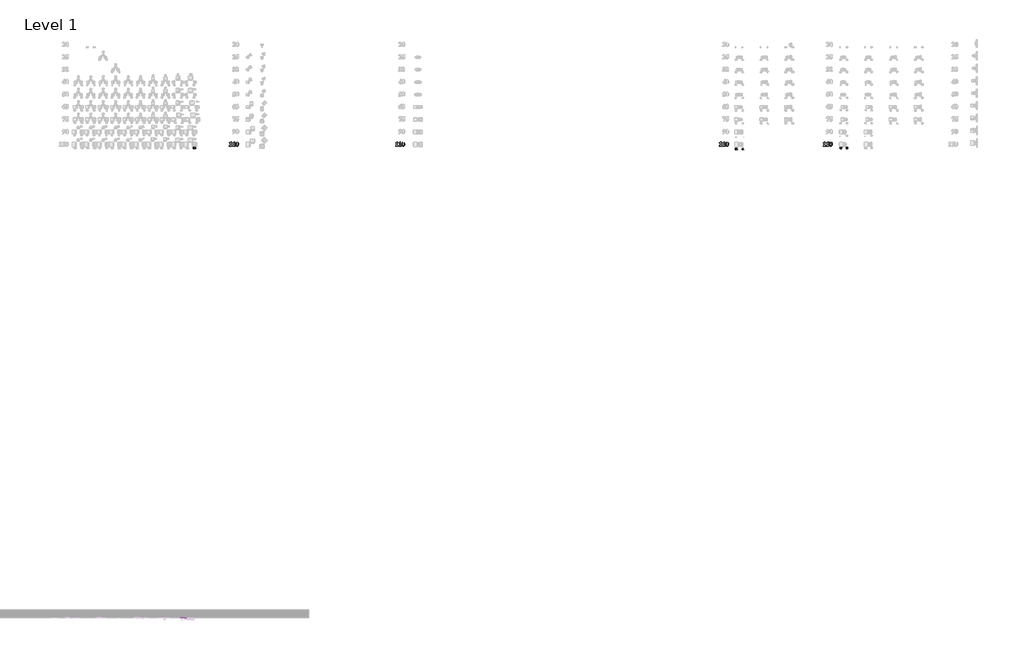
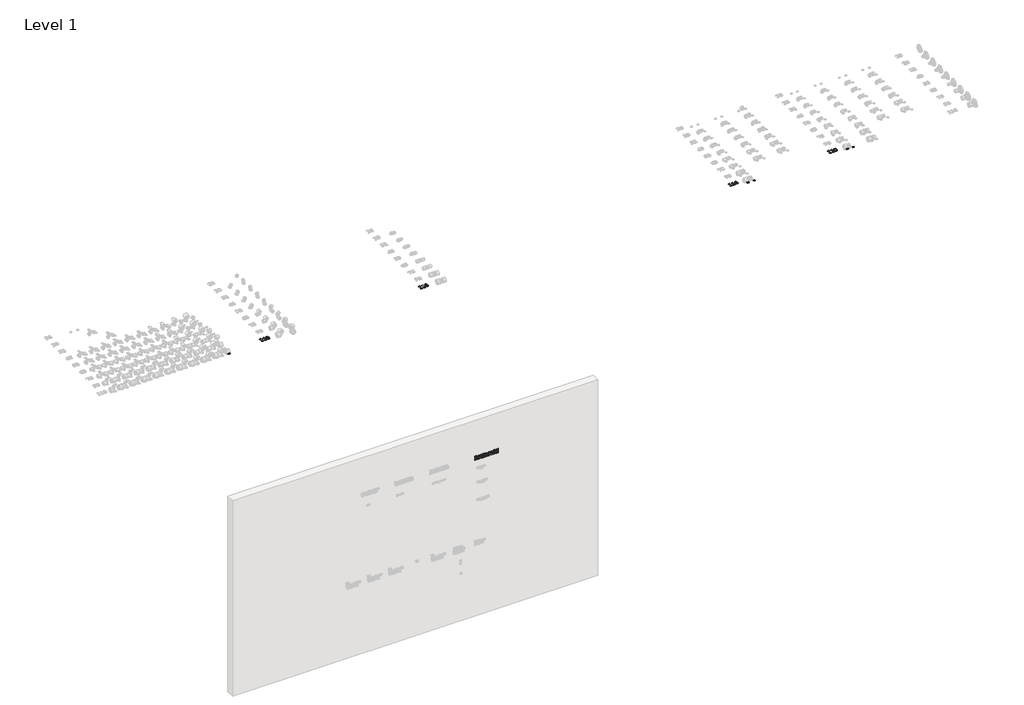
# One storey, part 18 of 57: 10 proxies.
"""IFC4 building model written with IfcOpenShell, lengths in millimetres."""

from ifc_helpers import new_model, si_unit, frame, origin, place, context, project, spatial, polyline, outline, extrude, element, save

model = new_model("IFC4")

# Units and contexts
model_context = context("Model", 3, world=origin())
ifc_project = project(units=[si_unit("LENGTHUNIT", "METRE", prefix="MILLI")], contexts=[model_context])

# Site, building, storey
site = spatial("IfcSite", under=ifc_project)
building = spatial("IfcBuilding", under=site)
storey = spatial("IfcBuildingStorey", under=building, Name="Level 1", Elevation=27.3876384)

# Proxies
placement = place(None, origin())
element("IfcBuildingElementProxy", 1, Name="100mm Arial", ObjectType="100mm Arial", at=placement, inside=storey, context=model_context, shape_type="SweptSolid", body=[
    extrude(outline(polyline([(16947.0644959, 16010.8916255), (16947.0644959, 15927.1351635), (16947.9233268, 15915.4387044), (16951.5358695, 15911.2945045), (16960.3422944, 15909.6859006), (16962.7688325, 15909.6859006), (16962.7688325, 15906.196048), (16906.9311912, 15906.196048), (16906.9311912, 15909.6859006), (16909.7394319, 15909.6859006), (16919.4455844, 15911.1581821), (16923.3580363, 15915.1933242), (16924.3804541, 15927.1351635), (16924.3804541, 15979.4829522), (16923.7261067, 15988.1394225), (16921.2995686, 15991.1248823), (16917.2098976, 15992.3790481), (16908.2398859, 15989.95251), (16906.9311912, 15993.4423626), (16944.5834288, 16010.8916255), (16947.0644959, 16010.8916255)])), frame((0.0, 0.0, 27.3876384), z_axis=(0.0, 0.0, 1.0), x_axis=(1.0, 0.0, 0.0)), (0.0, 0.0, 1.0), 2.0),
    extrude(outline(polyline([(17025.586179, 16010.8916255), (17025.586179, 15927.1351635), (17026.4450099, 15915.4387044), (17030.0575526, 15911.2945045), (17038.8639775, 15909.6859006), (17041.2905157, 15909.6859006), (17041.2905157, 15906.196048), (16985.4528743, 15906.196048), (16985.4528743, 15909.6859006), (16988.2611151, 15909.6859006), (16997.9672676, 15911.1581821), (17001.8797195, 15915.1933242), (17002.9021372, 15927.1351635), (17002.9021372, 15979.4829522), (17002.2477899, 15988.1394225), (16999.8212517, 15991.1248823), (16995.7315807, 15992.3790481), (16986.761569, 15989.95251), (16985.4528743, 15993.4423626), (17023.105112, 16010.8916255), (17025.586179, 16010.8916255)])), frame((0.0, 0.0, 27.3876384), z_axis=(0.0, 0.0, 1.0), x_axis=(1.0, 0.0, 0.0)), (0.0, 0.0, 1.0), 2.0),
    extrude(outline(polyline([(17126.791904, 15957.6713736), (17122.3477948, 15929.0982056), (17115.2317673, 15915.7658781), (17105.0893832, 15907.5047427), (17092.7385768, 15904.4511217), (17078.9563855, 15908.213619), (17068.0642284, 15919.0103504), (17062.0933088, 15932.6425871), (17058.7397786, 15956.4717368), (17063.5655903, 15987.0624758), (17068.554989, 15997.2491647), (17075.6164876, 16004.7434868), (17092.7385768, 16010.8916255), (17109.8742983, 16004.8252802), (17121.5843896, 15988.5074929), (17126.791904, 15957.6713736)]), holes=[polyline([(17104.1078622, 15957.6713736), (17103.753424, 15989.0255179), (17099.6364885, 16003.2303085), (17092.6840478, 16005.6568466), (17086.8494506, 16003.8301269), (17082.5416638, 15994.505677), (17081.4238204, 15947.8561632), (17083.1414822, 15918.6831767), (17086.8358183, 15911.498988), (17093.2020728, 15909.6859006), (17099.6364885, 15912.1124387), (17103.753424, 15925.1721214), (17104.1078622, 15957.6713736)])]), frame((0.0, 0.0, 27.3876384), z_axis=(0.0, 0.0, 1.0), x_axis=(1.0, 0.0, 0.0)), (0.0, 0.0, 1.0), 2.0),
])
element("IfcBuildingElementProxy", 2, Name="100mm Arial", ObjectType="100mm Arial", at=placement, inside=storey, context=model_context, shape_type="SweptSolid", body=[
    extrude(outline(polyline([(20947.0644959, 16010.8916255), (20947.0644959, 15927.1351635), (20947.9233268, 15915.4387044), (20951.5358695, 15911.2945045), (20960.3422944, 15909.6859006), (20962.7688325, 15909.6859006), (20962.7688325, 15906.196048), (20906.9311912, 15906.196048), (20906.9311912, 15909.6859006), (20909.7394319, 15909.6859006), (20919.4455844, 15911.1581821), (20923.3580363, 15915.1933242), (20924.3804541, 15927.1351635), (20924.3804541, 15979.4829522), (20923.7261067, 15988.1394225), (20921.2995686, 15991.1248823), (20917.2098976, 15992.3790481), (20908.2398859, 15989.95251), (20906.9311912, 15993.4423626), (20944.5834288, 16010.8916255), (20947.0644959, 16010.8916255)])), frame((0.0, 0.0, 27.3876384), z_axis=(0.0, 0.0, 1.0), x_axis=(1.0, 0.0, 0.0)), (0.0, 0.0, 1.0), 2.0),
    extrude(outline(polyline([(21025.586179, 16010.8916255), (21025.586179, 15927.1351635), (21026.4450099, 15915.4387044), (21030.0575526, 15911.2945045), (21038.8639775, 15909.6859006), (21041.2905157, 15909.6859006), (21041.2905157, 15906.196048), (20985.4528743, 15906.196048), (20985.4528743, 15909.6859006), (20988.2611151, 15909.6859006), (20997.9672676, 15911.1581821), (21001.8797195, 15915.1933242), (21002.9021372, 15927.1351635), (21002.9021372, 15979.4829522), (21002.2477899, 15988.1394225), (20999.8212517, 15991.1248823), (20995.7315807, 15992.3790481), (20986.761569, 15989.95251), (20985.4528743, 15993.4423626), (21023.105112, 16010.8916255), (21025.586179, 16010.8916255)])), frame((0.0, 0.0, 27.3876384), z_axis=(0.0, 0.0, 1.0), x_axis=(1.0, 0.0, 0.0)), (0.0, 0.0, 1.0), 2.0),
    extrude(outline(polyline([(21126.791904, 15957.6713736), (21122.3477948, 15929.0982056), (21115.2317673, 15915.7658781), (21105.0893832, 15907.5047427), (21092.7385768, 15904.4511217), (21078.9563855, 15908.213619), (21068.0642284, 15919.0103504), (21062.0933088, 15932.6425871), (21058.7397786, 15956.4717368), (21063.5655903, 15987.0624758), (21068.554989, 15997.2491647), (21075.6164876, 16004.7434868), (21092.7385768, 16010.8916255), (21109.8742983, 16004.8252802), (21121.5843896, 15988.5074929), (21126.791904, 15957.6713736)]), holes=[polyline([(21104.1078622, 15957.6713736), (21103.753424, 15989.0255179), (21099.6364885, 16003.2303085), (21092.6840478, 16005.6568466), (21086.8494506, 16003.8301269), (21082.5416638, 15994.505677), (21081.4238204, 15947.8561632), (21083.1414822, 15918.6831767), (21086.8358183, 15911.498988), (21093.2020728, 15909.6859006), (21099.6364885, 15912.1124387), (21103.753424, 15925.1721214), (21104.1078622, 15957.6713736)])]), frame((0.0, 0.0, 27.3876384), z_axis=(0.0, 0.0, 1.0), x_axis=(1.0, 0.0, 0.0)), (0.0, 0.0, 1.0), 2.0),
])
element("IfcBuildingElementProxy", 3, Name="100mm Arial", ObjectType="100mm Arial", at=placement, inside=storey, context=model_context, shape_type="SweptSolid", body=[
    extrude(outline(polyline([(28747.0644959, 16010.8916255), (28747.0644959, 15927.1351635), (28747.9233268, 15915.4387044), (28751.5358695, 15911.2945045), (28760.3422944, 15909.6859006), (28762.7688325, 15909.6859006), (28762.7688325, 15906.196048), (28706.9311912, 15906.196048), (28706.9311912, 15909.6859006), (28709.7394319, 15909.6859006), (28719.4455844, 15911.1581821), (28723.3580363, 15915.1933242), (28724.3804541, 15927.1351635), (28724.3804541, 15979.4829522), (28723.7261067, 15988.1394225), (28721.2995686, 15991.1248823), (28717.2098976, 15992.3790481), (28708.2398859, 15989.95251), (28706.9311912, 15993.4423626), (28744.5834288, 16010.8916255), (28747.0644959, 16010.8916255)])), frame((0.0, 0.0, 27.3876384), z_axis=(0.0, 0.0, 1.0), x_axis=(1.0, 0.0, 0.0)), (0.0, 0.0, 1.0), 2.0),
    extrude(outline(polyline([(28825.586179, 16010.8916255), (28825.586179, 15927.1351635), (28826.4450099, 15915.4387044), (28830.0575526, 15911.2945045), (28838.8639775, 15909.6859006), (28841.2905157, 15909.6859006), (28841.2905157, 15906.196048), (28785.4528743, 15906.196048), (28785.4528743, 15909.6859006), (28788.2611151, 15909.6859006), (28797.9672676, 15911.1581821), (28801.8797195, 15915.1933242), (28802.9021372, 15927.1351635), (28802.9021372, 15979.4829522), (28802.2477899, 15988.1394225), (28799.8212517, 15991.1248823), (28795.7315807, 15992.3790481), (28786.761569, 15989.95251), (28785.4528743, 15993.4423626), (28823.105112, 16010.8916255), (28825.586179, 16010.8916255)])), frame((0.0, 0.0, 27.3876384), z_axis=(0.0, 0.0, 1.0), x_axis=(1.0, 0.0, 0.0)), (0.0, 0.0, 1.0), 2.0),
    extrude(outline(polyline([(28926.791904, 15957.6713736), (28922.3477948, 15929.0982056), (28915.2317673, 15915.7658781), (28905.0893832, 15907.5047427), (28892.7385768, 15904.4511217), (28878.9563855, 15908.213619), (28868.0642284, 15919.0103504), (28862.0933088, 15932.6425871), (28858.7397786, 15956.4717368), (28863.5655903, 15987.0624758), (28868.554989, 15997.2491647), (28875.6164876, 16004.7434868), (28892.7385768, 16010.8916255), (28909.8742983, 16004.8252802), (28921.5843896, 15988.5074929), (28926.791904, 15957.6713736)]), holes=[polyline([(28904.1078622, 15957.6713736), (28903.753424, 15989.0255179), (28899.6364885, 16003.2303085), (28892.6840478, 16005.6568466), (28886.8494506, 16003.8301269), (28882.5416638, 15994.505677), (28881.4238204, 15947.8561632), (28883.1414822, 15918.6831767), (28886.8358183, 15911.498988), (28893.2020728, 15909.6859006), (28899.6364885, 15912.1124387), (28903.753424, 15925.1721214), (28904.1078622, 15957.6713736)])]), frame((0.0, 0.0, 27.3876384), z_axis=(0.0, 0.0, 1.0), x_axis=(1.0, 0.0, 0.0)), (0.0, 0.0, 1.0), 2.0),
])
element("IfcBuildingElementProxy", 4, Name="100mm Arial", ObjectType="100mm Arial", at=placement, inside=storey, context=model_context, shape_type="SweptSolid", body=[
    extrude(outline(polyline([(31247.0644959, 16010.8916255), (31247.0644959, 15927.1351635), (31247.9233268, 15915.4387044), (31251.5358695, 15911.2945045), (31260.3422944, 15909.6859006), (31262.7688325, 15909.6859006), (31262.7688325, 15906.196048), (31206.9311912, 15906.196048), (31206.9311912, 15909.6859006), (31209.7394319, 15909.6859006), (31219.4455844, 15911.1581821), (31223.3580363, 15915.1933242), (31224.3804541, 15927.1351635), (31224.3804541, 15979.4829522), (31223.7261067, 15988.1394225), (31221.2995686, 15991.1248823), (31217.2098976, 15992.3790481), (31208.2398859, 15989.95251), (31206.9311912, 15993.4423626), (31244.5834288, 16010.8916255), (31247.0644959, 16010.8916255)])), frame((0.0, 0.0, 27.3876384), z_axis=(0.0, 0.0, 1.0), x_axis=(1.0, 0.0, 0.0)), (0.0, 0.0, 1.0), 2.0),
    extrude(outline(polyline([(31325.586179, 16010.8916255), (31325.586179, 15927.1351635), (31326.4450099, 15915.4387044), (31330.0575526, 15911.2945045), (31338.8639775, 15909.6859006), (31341.2905157, 15909.6859006), (31341.2905157, 15906.196048), (31285.4528743, 15906.196048), (31285.4528743, 15909.6859006), (31288.2611151, 15909.6859006), (31297.9672676, 15911.1581821), (31301.8797195, 15915.1933242), (31302.9021372, 15927.1351635), (31302.9021372, 15979.4829522), (31302.2477899, 15988.1394225), (31299.8212517, 15991.1248823), (31295.7315807, 15992.3790481), (31286.761569, 15989.95251), (31285.4528743, 15993.4423626), (31323.105112, 16010.8916255), (31325.586179, 16010.8916255)])), frame((0.0, 0.0, 27.3876384), z_axis=(0.0, 0.0, 1.0), x_axis=(1.0, 0.0, 0.0)), (0.0, 0.0, 1.0), 2.0),
    extrude(outline(polyline([(31426.791904, 15957.6713736), (31422.3477948, 15929.0982056), (31415.2317673, 15915.7658781), (31405.0893832, 15907.5047427), (31392.7385768, 15904.4511217), (31378.9563855, 15908.213619), (31368.0642284, 15919.0103504), (31362.0933088, 15932.6425871), (31358.7397786, 15956.4717368), (31363.5655903, 15987.0624758), (31368.554989, 15997.2491647), (31375.6164876, 16004.7434868), (31392.7385768, 16010.8916255), (31409.8742983, 16004.8252802), (31421.5843896, 15988.5074929), (31426.791904, 15957.6713736)]), holes=[polyline([(31404.1078622, 15957.6713736), (31403.753424, 15989.0255179), (31399.6364885, 16003.2303085), (31392.6840478, 16005.6568466), (31386.8494506, 16003.8301269), (31382.5416638, 15994.505677), (31381.4238204, 15947.8561632), (31383.1414822, 15918.6831767), (31386.8358183, 15911.498988), (31393.2020728, 15909.6859006), (31399.6364885, 15912.1124387), (31403.753424, 15925.1721214), (31404.1078622, 15957.6713736)])]), frame((0.0, 0.0, 27.3876384), z_axis=(0.0, 0.0, 1.0), x_axis=(1.0, 0.0, 0.0)), (0.0, 0.0, 1.0), 2.0),
])
element("IfcBuildingElementProxy", 5, Name="30mm Arial", ObjectType="30mm Arial", at=placement, inside=storey, context=model_context, shape_type="SweptSolid", body=[
    extrude(outline(polyline([(16041.9203597, 15842.5788539), (16036.090306, 15842.5788539), (16036.090306, 15864.4567378), (16028.8027389, 15859.5831773), (16028.8027389, 15865.413231), (16033.6687082, 15868.2713237), (16037.2745357, 15873.1866359), (16041.9203597, 15873.1866359), (16041.9203597, 15842.5788539)])), frame((0.0, 0.0, 27.3876384), z_axis=(0.0, 0.0, 1.0), x_axis=(1.0, 0.0, 0.0)), (0.0, 0.0, 1.0), 2.0),
    extrude(outline(polyline([(16065.2405746, 15842.5788539), (16059.4105209, 15842.5788539), (16059.4105209, 15864.4567378), (16052.1229537, 15859.5831773), (16052.1229537, 15865.413231), (16056.988923, 15868.2713237), (16060.5947505, 15873.1866359), (16065.2405746, 15873.1866359), (16065.2405746, 15842.5788539)])), frame((0.0, 0.0, 27.3876384), z_axis=(0.0, 0.0, 1.0), x_axis=(1.0, 0.0, 0.0)), (0.0, 0.0, 1.0), 2.0),
    extrude(outline(polyline([(16083.7024113, 15873.1866359), (16090.4965495, 15870.0286902), (16093.4191675, 15857.6322348), (16090.481367, 15845.2054146), (16083.7024113, 15842.0930161), (16076.6615587, 15845.5090632), (16073.9856552, 15857.6929645), (16076.9234557, 15870.0742375), (16083.7024113, 15873.1866359)]), holes=[polyline([(16083.7024113, 15867.84242), (16081.7590601, 15867.2009623), (16080.4381886, 15864.8970283), (16079.8157089, 15857.6322348), (16080.3698676, 15850.6141558), (16081.7704469, 15848.0710985), (16083.7024113, 15847.437232), (16085.6457626, 15848.0786898), (16086.9666341, 15850.3826237), (16087.5891138, 15857.6322348), (16087.0349551, 15864.6465182), (16085.6343758, 15867.2009623), (16083.7024113, 15867.84242)])]), frame((0.0, 0.0, 27.3876384), z_axis=(0.0, 0.0, 1.0), x_axis=(1.0, 0.0, 0.0)), (0.0, 0.0, 1.0), 2.0),
])
element("IfcBuildingElementProxy", 6, Name="30mm Arial", ObjectType="30mm Arial", at=placement, inside=storey, context=model_context, shape_type="SweptSolid", body=[
    extrude(outline(polyline([(29097.1703597, 15819.4288539), (29091.340306, 15819.4288539), (29091.340306, 15841.3067378), (29084.0527389, 15836.4331773), (29084.0527389, 15842.263231), (29088.9187082, 15845.1213237), (29092.5245357, 15850.0366359), (29097.1703597, 15850.0366359), (29097.1703597, 15819.4288539)])), frame((0.0, 0.0, 27.3876384), z_axis=(0.0, 0.0, 1.0), x_axis=(1.0, 0.0, 0.0)), (0.0, 0.0, 1.0), 2.0),
    extrude(outline(polyline([(29120.4905746, 15819.4288539), (29114.6605209, 15819.4288539), (29114.6605209, 15841.3067378), (29107.3729537, 15836.4331773), (29107.3729537, 15842.263231), (29112.238923, 15845.1213237), (29115.8447505, 15850.0366359), (29120.4905746, 15850.0366359), (29120.4905746, 15819.4288539)])), frame((0.0, 0.0, 27.3876384), z_axis=(0.0, 0.0, 1.0), x_axis=(1.0, 0.0, 0.0)), (0.0, 0.0, 1.0), 2.0),
    extrude(outline(polyline([(29138.9524113, 15850.0366359), (29145.7465495, 15846.8786902), (29148.6691675, 15834.4822348), (29145.731367, 15822.0554146), (29138.9524113, 15818.9430161), (29131.9115587, 15822.3590632), (29129.2356552, 15834.5429645), (29132.1734557, 15846.9242375), (29138.9524113, 15850.0366359)]), holes=[polyline([(29138.9524113, 15844.69242), (29137.0090601, 15844.0509623), (29135.6881886, 15841.7470283), (29135.0657089, 15834.4822348), (29135.6198676, 15827.4641558), (29137.0204469, 15824.9210985), (29138.9524113, 15824.287232), (29140.8957626, 15824.9286898), (29142.2166341, 15827.2326237), (29142.8391138, 15834.4822348), (29142.2849551, 15841.4965182), (29140.8843758, 15844.0509623), (29138.9524113, 15844.69242)])]), frame((0.0, 0.0, 27.3876384), z_axis=(0.0, 0.0, 1.0), x_axis=(1.0, 0.0, 0.0)), (0.0, 0.0, 1.0), 2.0),
])
element("IfcBuildingElementProxy", 7, Name="30mm Arial", ObjectType="30mm Arial", at=placement, inside=storey, context=model_context, shape_type="SweptSolid", body=[
    extrude(outline(polyline([(29262.0336573, 15819.4288539), (29262.0336573, 15825.7447455), (29250.3735498, 15825.7447455), (29250.3735498, 15830.5803499), (29262.8079613, 15849.5507981), (29267.863711, 15849.5507981), (29267.863711, 15830.6031236), (29271.7504134, 15830.6031236), (29271.7504134, 15825.7447455), (29267.863711, 15825.7447455), (29267.863711, 15819.4288539), (29262.0336573, 15819.4288539)]), holes=[polyline([(29262.0336573, 15830.6031236), (29262.0336573, 15840.5476162), (29255.5203941, 15830.6031236), (29262.0336573, 15830.6031236)])]), frame((0.0, 0.0, 27.3876384), z_axis=(0.0, 0.0, 1.0), x_axis=(1.0, 0.0, 0.0)), (0.0, 0.0, 1.0), 2.0),
    extrude(outline(polyline([(29284.3821965, 15850.0366359), (29291.1763346, 15846.8786902), (29294.0989527, 15834.4822348), (29291.1611522, 15822.0554146), (29284.3821965, 15818.9430161), (29277.3413439, 15822.3590632), (29274.6654403, 15834.5429645), (29277.6032408, 15846.9242375), (29284.3821965, 15850.0366359)]), holes=[polyline([(29284.3821965, 15844.69242), (29282.4388453, 15844.0509623), (29281.1179737, 15841.7470283), (29280.495494, 15834.4822348), (29281.0496528, 15827.4641558), (29282.4502321, 15824.9210985), (29284.3821965, 15824.287232), (29286.3255477, 15824.9286898), (29287.6464193, 15827.2326237), (29288.268899, 15834.4822348), (29287.7147402, 15841.4965182), (29286.3141609, 15844.0509623), (29284.3821965, 15844.69242)])]), frame((0.0, 0.0, 27.3876384), z_axis=(0.0, 0.0, 1.0), x_axis=(1.0, 0.0, 0.0)), (0.0, 0.0, 1.0), 2.0),
])
element("IfcBuildingElementProxy", 8, Name="30mm Arial", ObjectType="30mm Arial", at=placement, inside=storey, context=model_context, shape_type="SweptSolid", body=[
    extrude(outline(polyline([(31617.1703597, 15843.5788539), (31611.340306, 15843.5788539), (31611.340306, 15865.4567378), (31604.0527389, 15860.5831773), (31604.0527389, 15866.413231), (31608.9187082, 15869.2713237), (31612.5245357, 15874.1866359), (31617.1703597, 15874.1866359), (31617.1703597, 15843.5788539)])), frame((0.0, 0.0, 27.3876384), z_axis=(0.0, 0.0, 1.0), x_axis=(1.0, 0.0, 0.0)), (0.0, 0.0, 1.0), 2.0),
    extrude(outline(polyline([(31640.4905746, 15843.5788539), (31634.6605209, 15843.5788539), (31634.6605209, 15865.4567378), (31627.3729537, 15860.5831773), (31627.3729537, 15866.413231), (31632.238923, 15869.2713237), (31635.8447505, 15874.1866359), (31640.4905746, 15874.1866359), (31640.4905746, 15843.5788539)])), frame((0.0, 0.0, 27.3876384), z_axis=(0.0, 0.0, 1.0), x_axis=(1.0, 0.0, 0.0)), (0.0, 0.0, 1.0), 2.0),
    extrude(outline(polyline([(31658.9524113, 15874.1866359), (31665.7465495, 15871.0286902), (31668.6691675, 15858.6322348), (31665.731367, 15846.2054146), (31658.9524113, 15843.0930161), (31651.9115587, 15846.5090632), (31649.2356552, 15858.6929645), (31652.1734557, 15871.0742375), (31658.9524113, 15874.1866359)]), holes=[polyline([(31658.9524113, 15868.84242), (31657.0090601, 15868.2009623), (31655.6881886, 15865.8970283), (31655.0657089, 15858.6322348), (31655.6198676, 15851.6141558), (31657.0204469, 15849.0710985), (31658.9524113, 15848.437232), (31660.8957626, 15849.0786898), (31662.2166341, 15851.3826237), (31662.8391138, 15858.6322348), (31662.2849551, 15865.6465182), (31660.8843758, 15868.2009623), (31658.9524113, 15868.84242)])]), frame((0.0, 0.0, 27.3876384), z_axis=(0.0, 0.0, 1.0), x_axis=(1.0, 0.0, 0.0)), (0.0, 0.0, 1.0), 2.0),
])
element("IfcBuildingElementProxy", 9, Name="30mm Arial", ObjectType="30mm Arial", at=placement, inside=storey, context=model_context, shape_type="SweptSolid", body=[
    extrude(outline(polyline([(31770.9203597, 15843.5788539), (31765.090306, 15843.5788539), (31765.090306, 15865.4567378), (31757.8027389, 15860.5831773), (31757.8027389, 15866.413231), (31762.6687082, 15869.2713237), (31766.2745357, 15874.1866359), (31770.9203597, 15874.1866359), (31770.9203597, 15843.5788539)])), frame((0.0, 0.0, 27.3876384), z_axis=(0.0, 0.0, 1.0), x_axis=(1.0, 0.0, 0.0)), (0.0, 0.0, 1.0), 2.0),
    extrude(outline(polyline([(31779.6654403, 15852.1948838), (31785.0096562, 15852.8097723), (31786.4975345, 15849.6138705), (31789.3518316, 15848.437232), (31792.4756169, 15849.685987), (31793.7547368, 15853.4474344), (31792.5667115, 15856.9773498), (31789.4732911, 15858.1539882), (31785.2070278, 15855.7247992), (31780.1512781, 15856.4763295), (31783.5521428, 15873.7007981), (31798.1272771, 15873.7007981), (31798.1272771, 15867.8707444), (31788.2662878, 15867.8707444), (31787.0896493, 15862.3063832), (31790.8473011, 15863.4982041), (31797.0417332, 15860.7387972), (31799.5847905, 15853.5764851), (31797.4668413, 15847.0252659), (31789.4429262, 15843.0930161), (31782.7588607, 15845.5601612), (31779.6654403, 15852.1948838)])), frame((0.0, 0.0, 27.3876384), z_axis=(0.0, 0.0, 1.0), x_axis=(1.0, 0.0, 0.0)), (0.0, 0.0, 1.0), 2.0),
])
element("IfcBuildingElementProxy", 10, Name="50mm Arial", ObjectType="50mm Arial", at=placement, inside=storey, context=model_context, shape_type="SweptSolid", body=[
    extrude(outline(polyline([(4250.1960379, 15717.7176742), (4240.6065805, 15720.4277382), (4234.2544848, 15727.5217294), (4232.1452947, 15738.7359988), (4234.1012006, 15748.2334857), (4239.5826423, 15754.7082088), (4247.0935664, 15756.9584203), (4254.1936889, 15755.0025144), (4259.2827232, 15748.9263301), (4262.4342456, 15737.8162939), (4265.9413873, 15727.5646489), (4270.2946576, 15725.5658234), (4275.5063191, 15728.3862521), (4277.6645602, 15737.3748355), (4275.4817937, 15746.3388934), (4269.031596, 15749.895086), (4269.031596, 15756.1736054), (4276.892008, 15753.6842706), (4282.1527205, 15747.0623947), (4283.9430796, 15737.1295808), (4282.2324283, 15727.8221663), (4277.2169704, 15721.4639392), (4270.1107166, 15719.287304), (4263.8689854, 15721.0470062), (4259.196884, 15726.3874265), (4256.1005439, 15736.2282699), (4253.7031796, 15745.3701375), (4250.8520941, 15749.6375686), (4246.9341509, 15750.679901), (4242.721902, 15749.2880807), (4239.5703796, 15745.0513064), (4238.423814, 15738.4907442), (4239.9382616, 15730.961426), (4243.9113871, 15726.0195445), (4250.1960379, 15723.9961936), (4250.1960379, 15717.7176742)])), frame((0.0, 4542.8703674, 0.0), z_axis=(0.0, 1.0, 0.0), x_axis=(0.0, 0.0, 1.0)), (0.0, 0.0, 1.0), 2.0),
    extrude(outline(polyline([(4232.9301096, 15789.1358322), (4232.9301096, 15795.4143516), (4269.816411, 15795.4143516), (4269.816411, 15789.1358322), (4250.6252335, 15789.1358322), (4243.6293443, 15788.1180253), (4239.8217656, 15784.6538032), (4238.423814, 15779.4114848), (4239.7911088, 15774.7332521), (4243.5496365, 15772.2500486), (4249.9507832, 15771.8699039), (4269.816411, 15771.8699039), (4269.816411, 15765.5913845), (4246.9954645, 15765.5913845), (4241.1584035, 15765.9592665), (4236.5353531, 15767.8293333), (4233.3960934, 15771.9005607), (4232.1452947, 15777.8050667), (4233.9264566, 15784.2184762), (4239.2699426, 15789.1358322), (4232.9301096, 15789.1358322)])), frame((0.0, 4542.8703674, 0.0), z_axis=(0.0, 1.0, 0.0), x_axis=(0.0, 0.0, 1.0)), (0.0, 0.0, 1.0), 2.0),
    extrude(outline(polyline([(4218.803441, 15804.0473157), (4218.803441, 15810.3258351), (4237.8352028, 15810.3258351), (4233.7578441, 15814.305092), (4232.1452947, 15819.7681397), (4234.5549217, 15827.7082594), (4241.483366, 15833.4594812), (4251.6553031, 15835.4399126), (4261.3305996, 15833.6863418), (4268.1732047, 15828.4869429), (4270.6012259, 15820.5284291), (4268.8660491, 15814.6668427), (4263.6605189, 15810.3258351), (4269.816411, 15810.3258351), (4269.816411, 15804.0473157), (4218.803441, 15804.0473157)]), holes=[polyline([(4251.0789547, 15810.3258351), (4260.9320608, 15813.2259715), (4264.3227065, 15819.890767), (4261.1343959, 15826.4268038), (4251.5449385, 15829.1613933), (4241.6243874, 15826.3593587), (4238.423814, 15819.6332496), (4241.5140228, 15813.0420305), (4251.0789547, 15810.3258351)])]), frame((0.0, 4542.8703674, 0.0), z_axis=(0.0, 1.0, 0.0), x_axis=(0.0, 0.0, 1.0)), (0.0, 0.0, 1.0), 2.0),
    extrude(outline(polyline([(4243.9175185, 15868.328563), (4239.7359265, 15864.2818611), (4238.423814, 15858.125969), (4241.2565054, 15850.0386965), (4249.411223, 15846.4273216), (4249.411223, 15874.6438706), (4251.1034801, 15874.6806588), (4265.4876661, 15869.916587), (4270.6012259, 15857.6477224), (4265.4754034, 15845.0171073), (4251.0666919, 15840.1488022), (4237.117833, 15844.9680563), (4232.1452947, 15858.0033417), (4235.0270369, 15868.7271018), (4243.1327036, 15874.4844551), (4243.9175185, 15868.328563)]), holes=[polyline([(4255.6897423, 15846.4273216), (4261.9743931, 15849.8915437), (4264.3227065, 15857.623197), (4261.3796505, 15865.8882791), (4255.6897423, 15868.4021394), (4255.6897423, 15846.4273216)])]), frame((0.0, 4542.8703674, 0.0), z_axis=(0.0, 1.0, 0.0), x_axis=(0.0, 0.0, 1.0)), (0.0, 0.0, 1.0), 2.0),
    extrude(outline(polyline([(4232.9301096, 15880.9591782), (4232.9301096, 15887.2376976), (4252.3174907, 15887.2376976), (4259.6506052, 15888.2555044), (4263.0841704, 15890.5179787), (4264.3227065, 15894.0680399), (4263.0351195, 15898.4826239), (4268.663714, 15900.5795513), (4270.6012259, 15894.2765064), (4269.3872153, 15890.3524318), (4264.3594947, 15886.4528826), (4269.816411, 15886.4528826), (4269.816411, 15880.9591782), (4232.9301096, 15880.9591782)])), frame((0.0, 4542.8703674, 0.0), z_axis=(0.0, 1.0, 0.0), x_axis=(0.0, 0.0, 1.0)), (0.0, 0.0, 1.0), 2.0),
    extrude(outline(polyline([(4218.803441, 15904.5036259), (4218.803441, 15910.7821453), (4237.8352028, 15910.7821453), (4233.7578441, 15914.7614022), (4232.1452947, 15920.2244498), (4234.5549217, 15928.1645695), (4241.483366, 15933.9157914), (4251.6553031, 15935.8962228), (4261.3305996, 15934.142652), (4268.1732047, 15928.9432531), (4270.6012259, 15920.9847393), (4268.8660491, 15915.1231528), (4263.6605189, 15910.7821453), (4269.816411, 15910.7821453), (4269.816411, 15904.5036259), (4218.803441, 15904.5036259)]), holes=[polyline([(4251.0789547, 15910.7821453), (4260.9320608, 15913.6822817), (4264.3227065, 15920.3470771), (4261.1343959, 15926.8831139), (4251.5449385, 15929.6177034), (4241.6243874, 15926.8156689), (4238.423814, 15920.0895597), (4241.5140228, 15913.4983407), (4251.0789547, 15910.7821453)])]), frame((0.0, 4542.8703674, 0.0), z_axis=(0.0, 1.0, 0.0), x_axis=(0.0, 0.0, 1.0)), (0.0, 0.0, 1.0), 2.0),
    extrude(outline(polyline([(15949.2380765, 4542.8703674), (15942.9595571, 4542.8703674), (15942.9595571, 4544.8703674), (15949.2380765, 4544.8703674), (15949.2380765, 4542.8703674)])), frame((0.0, 0.0, 4276.8797453), z_axis=(0.0, 0.0, 1.0), x_axis=(1.0, 0.0, 0.0)), (0.0, 0.0, 1.0), 6.2785194),
    extrude(outline(polyline([(15949.2380765, 4542.8703674), (15942.9595571, 4542.8703674), (15942.9595571, 4544.8703674), (15949.2380765, 4544.8703674), (15949.2380765, 4542.8703674)])), frame((0.0, 0.0, 4232.9301096), z_axis=(0.0, 0.0, 1.0), x_axis=(1.0, 0.0, 0.0)), (0.0, 0.0, 1.0), 36.8863014),
    extrude(outline(polyline([(4218.803441, 15958.6558556), (4218.803441, 15964.934375), (4237.8352028, 15964.934375), (4233.7578441, 15968.9136319), (4232.1452947, 15974.3766795), (4234.5549217, 15982.3167992), (4241.483366, 15988.0680211), (4251.6553031, 15990.0484525), (4261.3305996, 15988.2948816), (4268.1732047, 15983.0954828), (4270.6012259, 15975.136969), (4268.8660491, 15969.2753825), (4263.6605189, 15964.934375), (4269.816411, 15964.934375), (4269.816411, 15958.6558556), (4218.803441, 15958.6558556)]), holes=[polyline([(4251.0789547, 15964.934375), (4260.9320608, 15967.8345113), (4264.3227065, 15974.4993068), (4261.1343959, 15981.0353436), (4251.5449385, 15983.7699331), (4241.6243874, 15980.9678986), (4238.423814, 15974.2417894), (4241.5140228, 15967.6505703), (4251.0789547, 15964.934375)])]), frame((0.0, 4542.8703674, 0.0), z_axis=(0.0, 1.0, 0.0), x_axis=(0.0, 0.0, 1.0)), (0.0, 0.0, 1.0), 2.0),
    extrude(outline(polyline([(4243.9175185, 16022.9371029), (4239.7359265, 16018.8904009), (4238.423814, 16012.7345089), (4241.2565054, 16004.6472363), (4249.411223, 16001.0358614), (4249.411223, 16029.2524104), (4251.1034801, 16029.2891986), (4265.4876661, 16024.5251268), (4270.6012259, 16012.2562623), (4265.4754034, 15999.6256471), (4251.0666919, 15994.757342), (4237.117833, 15999.5765962), (4232.1452947, 16012.6118815), (4235.0270369, 16023.3356417), (4243.1327036, 16029.0929949), (4243.9175185, 16022.9371029)]), holes=[polyline([(4255.6897423, 16001.0358614), (4261.9743931, 16004.5000835), (4264.3227065, 16012.2317368), (4261.3796505, 16020.496819), (4255.6897423, 16023.0106793), (4255.6897423, 16001.0358614)])]), frame((0.0, 4542.8703674, 0.0), z_axis=(0.0, 1.0, 0.0), x_axis=(0.0, 0.0, 1.0)), (0.0, 0.0, 1.0), 2.0),
    extrude(outline(polyline([(4232.9301096, 16055.1880911), (4232.9301096, 16061.4666105), (4251.5326758, 16061.4666105), (4259.0252058, 16062.4231037), (4262.9738058, 16065.5133124), (4264.3227065, 16070.1608883), (4262.2993555, 16074.9249601), (4256.2170399, 16076.378094), (4232.9301096, 16076.378094), (4232.9301096, 16082.6566134), (4253.7522305, 16082.6566134), (4261.8088462, 16085.1152914), (4264.3227065, 16091.2895776), (4263.3416878, 16094.876427), (4260.7603825, 16096.9856171), (4255.5180641, 16097.5680969), (4232.9301096, 16097.5680969), (4232.9301096, 16103.8466163), (4258.2158654, 16103.8466163), (4267.5661994, 16100.9710054), (4270.6012259, 16092.7611055), (4268.7771443, 16086.5745567), (4263.3048996, 16081.6755948), (4268.6821081, 16078.217504), (4270.6012259, 16071.9267219), (4268.7188963, 16065.7830926), (4263.746358, 16061.4666105), (4269.816411, 16061.4666105), (4269.816411, 16055.1880911), (4232.9301096, 16055.1880911)])), frame((0.0, 4542.8703674, 0.0), z_axis=(0.0, 1.0, 0.0), x_axis=(0.0, 0.0, 1.0)), (0.0, 0.0, 1.0), 2.0),
    extrude(outline(polyline([(4237.6389991, 16136.8088431), (4232.9301096, 16138.3784729), (4232.9301096, 16144.6569923), (4238.2092162, 16143.4061935), (4249.1169174, 16143.0873625), (4256.9282784, 16143.0873625), (4262.4219829, 16142.7807942), (4266.6832826, 16140.855545), (4269.4853172, 16136.5574571), (4270.6012259, 16128.9484311), (4269.3381644, 16120.6649549), (4265.7451835, 16115.1957759), (4259.613817, 16112.4795805), (4258.829002, 16118.7580999), (4263.1148273, 16121.786995), (4264.3227065, 16128.1390907), (4262.507822, 16135.0797977), (4256.4745573, 16136.7720549), (4254.3163162, 16125.8827478), (4253.3720858, 16120.450357), (4251.3119466, 16116.0541672), (4247.706703, 16112.8965134), (4242.7402961, 16111.6947656), (4235.1251388, 16114.8769448), (4232.1452947, 16123.9942869), (4233.3838307, 16130.7203961), (4237.6389991, 16136.8088431)]), holes=[polyline([(4250.1960379, 16136.8088431), (4248.4179416, 16136.7720549), (4243.5618992, 16135.7787735), (4239.9259988, 16131.6830206), (4238.423814, 16125.3309248), (4239.7849774, 16119.8433518), (4243.1817545, 16117.9732849), (4245.5975129, 16118.8316763), (4247.2529819, 16121.2780915), (4248.2707888, 16126.6798255), (4250.1960379, 16136.8088431)])]), frame((0.0, 4542.8703674, 0.0), z_axis=(0.0, 1.0, 0.0), x_axis=(0.0, 0.0, 1.0)), (0.0, 0.0, 1.0), 2.0),
    extrude(outline(polyline([(4232.9301096, 16151.7203266), (4232.9301096, 16157.998846), (4252.5014317, 16157.998846), (4261.8578971, 16160.8621942), (4264.3227065, 16167.6741425), (4263.2251919, 16171.9844932), (4260.2882673, 16174.5412731), (4254.7332492, 16175.2647743), (4232.9301096, 16175.2647743), (4232.9301096, 16181.5432937), (4255.5793777, 16181.5432937), (4261.6494307, 16181.2121999), (4266.2663497, 16179.3298704), (4269.4056094, 16175.2831684), (4270.6012259, 16169.3541369), (4269.1174352, 16162.7997061), (4264.666063, 16157.998846), (4269.816411, 16157.998846), (4269.816411, 16151.7203266), (4232.9301096, 16151.7203266)])), frame((0.0, 4542.8703674, 0.0), z_axis=(0.0, 1.0, 0.0), x_axis=(0.0, 0.0, 1.0)), (0.0, 0.0, 1.0), 2.0),
    extrude(outline(polyline([(16196.4547772, 4542.8703674), (16190.1762579, 4542.8703674), (16190.1762579, 4544.8703674), (16196.4547772, 4544.8703674), (16196.4547772, 4542.8703674)])), frame((0.0, 0.0, 4232.9301096), z_axis=(0.0, 0.0, 1.0), x_axis=(1.0, 0.0, 0.0)), (0.0, 0.0, 1.0), 36.8863014),
    extrude(outline(polyline([(16196.4547772, 4542.8703674), (16190.1762579, 4542.8703674), (16190.1762579, 4544.8703674), (16196.4547772, 4544.8703674), (16196.4547772, 4542.8703674)])), frame((0.0, 0.0, 4276.8797453), z_axis=(0.0, 0.0, 1.0), x_axis=(1.0, 0.0, 0.0)), (0.0, 0.0, 1.0), 6.2785194),
    extrude(outline(polyline([(4232.9301096, 16207.4421862), (4232.9301096, 16213.7207056), (4263.5378916, 16213.7207056), (4263.5378916, 16220.7840399), (4269.816411, 16220.7840399), (4269.816411, 16213.7207056), (4272.7349415, 16213.7207056), (4276.6222279, 16214.8795338), (4277.6645602, 16218.8342653), (4277.3702546, 16222.4517716), (4283.2563665, 16223.3714766), (4283.9430796, 16217.6447802), (4282.5083398, 16211.3172099), (4278.7682062, 16208.1043738), (4273.5320191, 16207.4421862), (4269.816411, 16207.4421862), (4269.816411, 16201.9484817), (4263.5378916, 16201.9484817), (4263.5378916, 16207.4421862), (4232.9301096, 16207.4421862)])), frame((0.0, 4542.8703674, 0.0), z_axis=(0.0, 1.0, 0.0), x_axis=(0.0, 0.0, 1.0)), (0.0, 0.0, 1.0), 2.0),
    extrude(outline(polyline([(4251.3732603, 16224.7081145), (4237.0994389, 16229.2637199), (4232.1452947, 16241.2014906), (4234.3955062, 16249.7056961), (4240.7169451, 16255.6347275), (4251.8882951, 16257.6703412), (4265.6286876, 16253.0656849), (4270.6012259, 16241.2014906), (4266.5177357, 16230.1405053), (4260.2668075, 16226.0662122), (4251.3732603, 16224.7081145)]), holes=[polyline([(4251.385523, 16230.9866339), (4261.103739, 16233.8929016), (4264.3227065, 16241.2014906), (4261.0914763, 16248.46716), (4251.5817267, 16251.3918219), (4241.6734383, 16248.4855541), (4238.423814, 16241.2014906), (4241.6550442, 16233.8929016), (4251.385523, 16230.9866339)])]), frame((0.0, 4542.8703674, 0.0), z_axis=(0.0, 1.0, 0.0), x_axis=(0.0, 0.0, 1.0)), (0.0, 0.0, 1.0), 2.0),
    extrude(outline(polyline([(16271.0121949, 4542.8703674), (16264.7336756, 4542.8703674), (16264.7336756, 4544.8703674), (16271.0121949, 4544.8703674), (16271.0121949, 4542.8703674)])), frame((0.0, 0.0, 4232.9301096), z_axis=(0.0, 0.0, 1.0), x_axis=(1.0, 0.0, 0.0)), (0.0, 0.0, 1.0), 50.2281551),
    extrude(outline(polyline([(4232.9301096, 16303.1896068), (4232.9301096, 16309.4681262), (4283.1582646, 16309.4681262), (4283.1582646, 16303.1896068), (4264.4453338, 16303.1896068), (4268.8905746, 16299.0570657), (4270.6012259, 16293.2690556), (4268.2099929, 16285.2553595), (4261.3305996, 16279.8720197), (4251.3364721, 16278.0755292), (4241.3484759, 16280.0253038), (4234.5733158, 16285.5190083), (4232.1452947, 16293.2935811), (4233.8222234, 16299.0356059), (4238.8530097, 16303.1896068), (4232.9301096, 16303.1896068)]), holes=[polyline([(4251.3609975, 16284.3540486), (4261.2018409, 16287.002799), (4264.3227065, 16293.6124122), (4261.0730822, 16300.4243605), (4250.8827509, 16303.1896068), (4241.4956287, 16300.4734114), (4238.423814, 16293.8699296), (4241.6427815, 16287.18674), (4251.3609975, 16284.3540486)])]), frame((0.0, 4542.8703674, 0.0), z_axis=(0.0, 1.0, 0.0), x_axis=(0.0, 0.0, 1.0)), (0.0, 0.0, 1.0), 2.0),
    extrude(outline(polyline([(4171.9427007, 15719.287304), (4171.9427007, 15725.5658234), (4190.5452669, 15725.5658234), (4198.0377968, 15726.5223166), (4201.9863969, 15729.6125254), (4203.3352976, 15734.2601012), (4201.3119466, 15739.0241731), (4195.2296309, 15740.477307), (4171.9427007, 15740.477307), (4171.9427007, 15746.7558263), (4192.7648216, 15746.7558263), (4200.8214373, 15749.2145043), (4203.3352976, 15755.3887905), (4202.3542789, 15758.97564), (4199.7729736, 15761.0848301), (4194.5306552, 15761.6673099), (4171.9427007, 15761.6673099), (4171.9427007, 15767.9458293), (4197.2284565, 15767.9458293), (4206.5787905, 15765.0702183), (4209.613817, 15756.8603185), (4207.7897354, 15750.6737696), (4202.3174907, 15745.7748077), (4207.6946992, 15742.3167169), (4209.613817, 15736.0259348), (4207.7314874, 15729.8823055), (4202.7589491, 15725.5658234), (4208.829002, 15725.5658234), (4208.829002, 15719.287304), (4171.9427007, 15719.287304)])), frame((0.0, 4542.8703674, 0.0), z_axis=(0.0, 1.0, 0.0), x_axis=(0.0, 0.0, 1.0)), (0.0, 0.0, 1.0), 2.0),
    extrude(outline(polyline([(4176.6515902, 15800.908056), (4171.9427007, 15802.4776859), (4171.9427007, 15808.7562053), (4177.2218073, 15807.5054065), (4188.1295084, 15807.1865754), (4195.9408695, 15807.1865754), (4201.4345739, 15806.8800071), (4205.6958737, 15804.954758), (4208.4979082, 15800.65667), (4209.613817, 15793.0476441), (4208.3507554, 15784.7641678), (4204.7577746, 15779.2949888), (4198.626408, 15776.5787934), (4197.8415931, 15782.8573128), (4202.1274184, 15785.8862079), (4203.3352976, 15792.2383037), (4201.5204131, 15799.1790107), (4195.4871483, 15800.8712678), (4193.3289073, 15789.9819608), (4192.3846768, 15784.54957), (4190.3245377, 15780.1533801), (4186.7192941, 15776.9957263), (4181.7528872, 15775.7939785), (4174.1377299, 15778.9761578), (4171.1578857, 15788.0934999), (4172.3964218, 15794.819609), (4176.6515902, 15800.908056)]), holes=[polyline([(4189.208629, 15800.908056), (4187.4305326, 15800.8712678), (4182.5744903, 15799.8779864), (4178.9385899, 15795.7822336), (4177.4364051, 15789.4301378), (4178.7975685, 15783.9425647), (4182.1943456, 15782.0724979), (4184.610104, 15782.9308892), (4186.265573, 15785.3773045), (4187.2833798, 15790.7790384), (4189.208629, 15800.908056)])]), frame((0.0, 4542.8703674, 0.0), z_axis=(0.0, 1.0, 0.0), x_axis=(0.0, 0.0, 1.0)), (0.0, 0.0, 1.0), 2.0),
    extrude(outline(polyline([(15822.098059, 4542.8703674), (15815.8195396, 4542.8703674), (15815.8195396, 4544.8703674), (15822.098059, 4544.8703674), (15822.098059, 4542.8703674)])), frame((0.0, 0.0, 4171.9427007), z_axis=(0.0, 0.0, 1.0), x_axis=(1.0, 0.0, 0.0)), (0.0, 0.0, 1.0), 50.2281551),
    extrude(outline(polyline([(4182.9301096, 15857.3411541), (4178.7485176, 15853.2944521), (4177.4364051, 15847.1385601), (4180.2690965, 15839.0512876), (4188.423814, 15835.4399126), (4188.423814, 15863.6564617), (4190.1160712, 15863.6932499), (4204.5002572, 15858.929178), (4209.613817, 15846.6603135), (4204.4879945, 15834.0296983), (4190.079283, 15829.1613933), (4176.130424, 15833.9806474), (4171.1578857, 15847.0159328), (4174.039628, 15857.7396929), (4182.1452947, 15863.4970461), (4182.9301096, 15857.3411541)]), holes=[polyline([(4194.7023334, 15835.4399126), (4200.9869842, 15838.9041348), (4203.3352976, 15846.635788), (4200.3922416, 15854.9008702), (4194.7023334, 15857.4147305), (4194.7023334, 15835.4399126)])]), frame((0.0, 4542.8703674, 0.0), z_axis=(0.0, 1.0, 0.0), x_axis=(0.0, 0.0, 1.0)), (0.0, 0.0, 1.0), 2.0),
    extrude(outline(polyline([(4171.9427007, 15891.1617722), (4171.9427007, 15897.4402916), (4202.5504826, 15897.4402916), (4202.5504826, 15904.5036259), (4208.829002, 15904.5036259), (4208.829002, 15897.4402916), (4211.7475325, 15897.4402916), (4215.6348189, 15898.5991199), (4216.6771513, 15902.5538513), (4216.3828457, 15906.1713576), (4222.2689576, 15907.0910626), (4222.9556706, 15901.3643662), (4221.5209309, 15895.0367959), (4217.7807972, 15891.8239598), (4212.5446102, 15891.1617722), (4208.829002, 15891.1617722), (4208.829002, 15885.6680677), (4202.5504826, 15885.6680677), (4202.5504826, 15891.1617722), (4171.9427007, 15891.1617722)])), frame((0.0, 4542.8703674, 0.0), z_axis=(0.0, 1.0, 0.0), x_axis=(0.0, 0.0, 1.0)), (0.0, 0.0, 1.0), 2.0),
    extrude(outline(polyline([(4182.9301096, 15935.8226464), (4178.7485176, 15931.7759445), (4177.4364051, 15925.6200524), (4180.2690965, 15917.5327799), (4188.423814, 15913.921405), (4188.423814, 15942.137954), (4190.1160712, 15942.1747422), (4204.5002572, 15937.4106703), (4209.613817, 15925.1418058), (4204.4879945, 15912.5111906), (4190.079283, 15907.6428856), (4176.130424, 15912.4621397), (4171.1578857, 15925.4974251), (4174.039628, 15936.2211852), (4182.1452947, 15941.9785385), (4182.9301096, 15935.8226464)]), holes=[polyline([(4194.7023334, 15913.921405), (4200.9869842, 15917.3856271), (4203.3352976, 15925.1172803), (4200.3922416, 15933.3823625), (4194.7023334, 15935.8962228), (4194.7023334, 15913.921405)])]), frame((0.0, 4542.8703674, 0.0), z_axis=(0.0, 1.0, 0.0), x_axis=(0.0, 0.0, 1.0)), (0.0, 0.0, 1.0), 2.0),
    extrude(outline(polyline([(4171.9427007, 15948.4532616), (4171.9427007, 15954.731781), (4190.5452669, 15954.731781), (4198.0377968, 15955.6882741), (4201.9863969, 15958.7784829), (4203.3352976, 15963.4260588), (4201.3119466, 15968.1901306), (4195.2296309, 15969.6432645), (4171.9427007, 15969.6432645), (4171.9427007, 15975.9217839), (4192.7648216, 15975.9217839), (4200.8214373, 15978.3804619), (4203.3352976, 15984.554748), (4202.3542789, 15988.1415975), (4199.7729736, 15990.2507876), (4194.5306552, 15990.8332674), (4171.9427007, 15990.8332674), (4171.9427007, 15997.1117868), (4197.2284565, 15997.1117868), (4206.5787905, 15994.2361759), (4209.613817, 15986.026276), (4207.7897354, 15979.8397271), (4202.3174907, 15974.9407652), (4207.6946992, 15971.4826745), (4209.613817, 15965.1918923), (4207.7314874, 15959.048263), (4202.7589491, 15954.731781), (4208.829002, 15954.731781), (4208.829002, 15948.4532616), (4171.9427007, 15948.4532616)])), frame((0.0, 4542.8703674, 0.0), z_axis=(0.0, 1.0, 0.0), x_axis=(0.0, 0.0, 1.0)), (0.0, 0.0, 1.0), 2.0),
    extrude(outline(polyline([(4176.6515902, 16030.0740136), (4171.9427007, 16031.6436434), (4171.9427007, 16037.9221628), (4177.2218073, 16036.671364), (4188.1295084, 16036.3525329), (4195.9408695, 16036.3525329), (4201.4345739, 16036.0459646), (4205.6958737, 16034.1207155), (4208.4979082, 16029.8226275), (4209.613817, 16022.2136016), (4208.3507554, 16013.9301253), (4204.7577746, 16008.4609463), (4198.626408, 16005.7447509), (4197.8415931, 16012.0232703), (4202.1274184, 16015.0521654), (4203.3352976, 16021.4042612), (4201.5204131, 16028.3449682), (4195.4871483, 16030.0372254), (4193.3289073, 16019.1479183), (4192.3846768, 16013.7155275), (4190.3245377, 16009.3193377), (4186.7192941, 16006.1616839), (4181.7528872, 16004.959936), (4174.1377299, 16008.1421153), (4171.1578857, 16017.2594574), (4172.3964218, 16023.9855665), (4176.6515902, 16030.0740136)]), holes=[polyline([(4189.208629, 16030.0740136), (4187.4305326, 16030.0372254), (4182.5744903, 16029.043944), (4178.9385899, 16024.9481911), (4177.4364051, 16018.5960953), (4178.7975685, 16013.1085222), (4182.1943456, 16011.2384554), (4184.610104, 16012.0968467), (4186.265573, 16014.543262), (4187.2833798, 16019.944996), (4189.208629, 16030.0740136)])]), frame((0.0, 4542.8703674, 0.0), z_axis=(0.0, 1.0, 0.0), x_axis=(0.0, 0.0, 1.0)), (0.0, 0.0, 1.0), 2.0),
    extrude(outline(polyline([(16051.2640165, 4542.8703674), (16044.9854971, 4542.8703674), (16044.9854971, 4544.8703674), (16051.2640165, 4544.8703674), (16051.2640165, 4542.8703674)])), frame((0.0, 0.0, 4171.9427007), z_axis=(0.0, 0.0, 1.0), x_axis=(1.0, 0.0, 0.0)), (0.0, 0.0, 1.0), 50.2281551),
    extrude(outline(polyline([(4182.9301096, 16086.5071116), (4178.7485176, 16082.4604097), (4177.4364051, 16076.3045176), (4180.2690965, 16068.2172451), (4188.423814, 16064.6058702), (4188.423814, 16092.8224192), (4190.1160712, 16092.8592074), (4204.5002572, 16088.0951356), (4209.613817, 16075.826271), (4204.4879945, 16063.1956559), (4190.079283, 16058.3273508), (4176.130424, 16063.1466049), (4171.1578857, 16076.1818903), (4174.039628, 16086.9056505), (4182.1452947, 16092.6630037), (4182.9301096, 16086.5071116)]), holes=[polyline([(4194.7023334, 16064.6058702), (4200.9869842, 16068.0700923), (4203.3352976, 16075.8017456), (4200.3922416, 16084.0668277), (4194.7023334, 16086.580688), (4194.7023334, 16064.6058702)])]), frame((0.0, 4542.8703674, 0.0), z_axis=(0.0, 1.0, 0.0), x_axis=(0.0, 0.0, 1.0)), (0.0, 0.0, 1.0), 2.0),
    extrude(outline(polyline([(4177.1788877, 16132.0999536), (4177.4364051, 16129.3653641), (4179.006035, 16126.152528), (4182.2433965, 16125.8214342), (4202.5504826, 16125.8214342), (4202.5504826, 16132.0999536), (4208.829002, 16132.0999536), (4208.829002, 16125.8214342), (4221.4841427, 16125.8214342), (4217.79306, 16119.5429148), (4208.829002, 16119.5429148), (4208.829002, 16114.8340253), (4202.5504826, 16114.8340253), (4202.5504826, 16119.5429148), (4182.0594555, 16119.5429148), (4174.9348075, 16120.3032042), (4172.200218, 16122.9274291), (4171.1578857, 16128.1881417), (4171.7587597, 16132.8847685), (4177.1788877, 16132.0999536)])), frame((0.0, 4542.8703674, 0.0), z_axis=(0.0, 1.0, 0.0), x_axis=(0.0, 0.0, 1.0)), (0.0, 0.0, 1.0), 2.0),
    extrude(outline(polyline([(4171.9427007, 16138.3784729), (4171.9427007, 16144.6569923), (4191.5385483, 16144.6569923), (4198.1481614, 16145.6809305), (4201.937346, 16149.1144958), (4203.3352976, 16154.2587124), (4201.2628957, 16159.9240951), (4194.6410198, 16161.9229206), (4171.9427007, 16161.9229206), (4171.9427007, 16168.20144), (4195.2909446, 16168.20144), (4203.543764, 16166.913853), (4208.0012675, 16162.6341592), (4209.613817, 16155.5830876), (4203.7031796, 16144.6569923), (4222.1708557, 16144.6569923), (4222.1708557, 16138.3784729), (4171.9427007, 16138.3784729)])), frame((0.0, 4542.8703674, 0.0), z_axis=(0.0, 1.0, 0.0), x_axis=(0.0, 0.0, 1.0)), (0.0, 0.0, 1.0), 2.0),
    extrude(outline(polyline([(4171.9427007, 16176.8344042), (4171.9427007, 16183.1129236), (4191.3300818, 16183.1129236), (4198.6631962, 16184.1307304), (4202.0967615, 16186.3932047), (4203.3352976, 16189.9432659), (4202.0477106, 16194.3578499), (4207.6763051, 16196.4547772), (4209.613817, 16190.1517324), (4208.3998064, 16186.2276578), (4203.3720858, 16182.3281086), (4208.829002, 16182.3281086), (4208.829002, 16176.8344042), (4171.9427007, 16176.8344042)])), frame((0.0, 4542.8703674, 0.0), z_axis=(0.0, 1.0, 0.0), x_axis=(0.0, 0.0, 1.0)), (0.0, 0.0, 1.0), 2.0),
    extrude(outline(polyline([(4182.9301096, 16226.2041679), (4178.7485176, 16222.157466), (4177.4364051, 16216.0015739), (4180.2690965, 16207.9143014), (4188.423814, 16204.3029265), (4188.423814, 16232.5194755), (4190.1160712, 16232.5562637), (4204.5002572, 16227.7921919), (4209.613817, 16215.5233273), (4204.4879945, 16202.8927122), (4190.079283, 16198.0244071), (4176.130424, 16202.8436612), (4171.1578857, 16215.8789466), (4174.039628, 16226.6027068), (4182.1452947, 16232.36006), (4182.9301096, 16226.2041679)]), holes=[polyline([(4194.7023334, 16204.3029265), (4200.9869842, 16207.7671486), (4203.3352976, 16215.4988019), (4200.3922416, 16223.763884), (4194.7023334, 16226.2777443), (4194.7023334, 16204.3029265)])]), frame((0.0, 4542.8703674, 0.0), z_axis=(0.0, 1.0, 0.0), x_axis=(0.0, 0.0, 1.0)), (0.0, 0.0, 1.0), 2.0),
    extrude(outline(polyline([(4176.6515902, 16262.3792308), (4171.9427007, 16263.9488606), (4171.9427007, 16270.22738), (4177.2218073, 16268.9765812), (4188.1295084, 16268.6577502), (4195.9408695, 16268.6577502), (4201.4345739, 16268.3511818), (4205.6958737, 16266.4259327), (4208.4979082, 16262.1278448), (4209.613817, 16254.5188188), (4208.3507554, 16246.2353426), (4204.7577746, 16240.7661636), (4198.626408, 16238.0499682), (4197.8415931, 16244.3284876), (4202.1274184, 16247.3573826), (4203.3352976, 16253.7094784), (4201.5204131, 16260.6501854), (4195.4871483, 16262.3424426), (4193.3289073, 16251.4531355), (4192.3846768, 16246.0207447), (4190.3245377, 16241.6245549), (4186.7192941, 16238.4669011), (4181.7528872, 16237.2651532), (4174.1377299, 16240.4473325), (4171.1578857, 16249.5646746), (4172.3964218, 16256.2907838), (4176.6515902, 16262.3792308)]), holes=[polyline([(4189.208629, 16262.3792308), (4187.4305326, 16262.3424426), (4182.5744903, 16261.3491612), (4178.9385899, 16257.2534083), (4177.4364051, 16250.9013125), (4178.7975685, 16245.4137394), (4182.1943456, 16243.5436726), (4184.610104, 16244.402064), (4186.265573, 16246.8484792), (4187.2833798, 16252.2502132), (4189.208629, 16262.3792308)])]), frame((0.0, 4542.8703674, 0.0), z_axis=(0.0, 1.0, 0.0), x_axis=(0.0, 0.0, 1.0)), (0.0, 0.0, 1.0), 2.0),
    extrude(outline(polyline([(4171.9427007, 16300.0503471), (4171.9427007, 16306.3288665), (4222.1708557, 16306.3288665), (4222.1708557, 16300.0503471), (4203.4579249, 16300.0503471), (4207.9031657, 16295.917806), (4209.613817, 16290.129796), (4207.222584, 16282.1160998), (4200.3431907, 16276.73276), (4190.3490631, 16274.9362696), (4180.361067, 16276.8860441), (4173.5859069, 16282.3797486), (4171.1578857, 16290.1543214), (4172.8348145, 16295.8963462), (4177.8656008, 16300.0503471), (4171.9427007, 16300.0503471)]), holes=[polyline([(4190.3735886, 16281.2147889), (4200.214432, 16283.8635393), (4203.3352976, 16290.4731525), (4200.0856733, 16297.2851008), (4189.895342, 16300.0503471), (4180.5082198, 16297.3341517), (4177.4364051, 16290.7306699), (4180.6553726, 16284.0474803), (4190.3735886, 16281.2147889)])]), frame((0.0, 4542.8703674, 0.0), z_axis=(0.0, 1.0, 0.0), x_axis=(0.0, 0.0, 1.0)), (0.0, 0.0, 1.0), 2.0),
])

save(model, "model.ifc")
